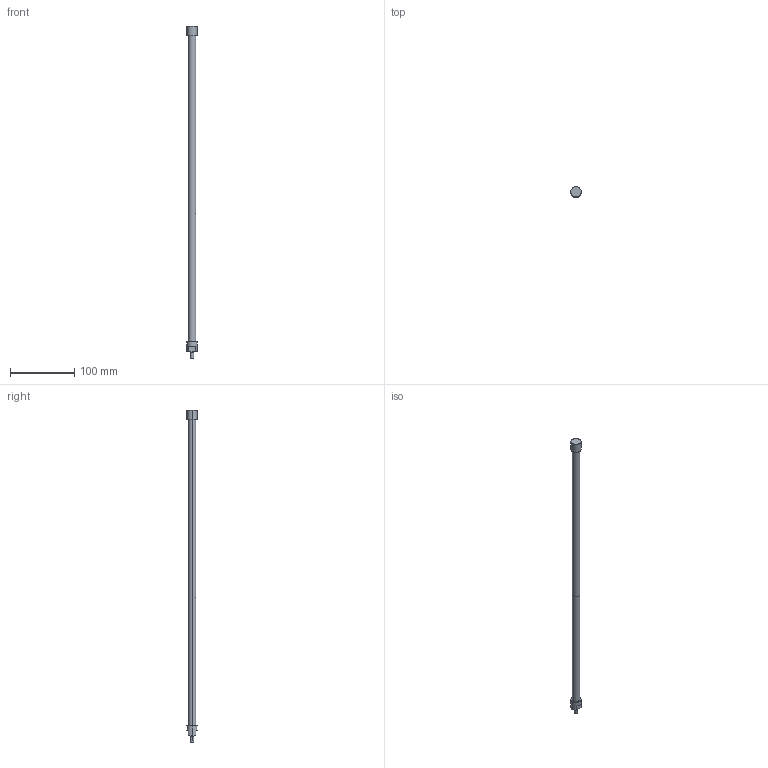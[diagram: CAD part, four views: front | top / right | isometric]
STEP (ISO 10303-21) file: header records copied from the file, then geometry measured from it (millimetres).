
FILE_DESCRIPTION(('STEP AP214'),'1');
FILE_NAME('ETT-R025M515.stp','2015-02-04T08:14:18',(' '),(' '),'Spatial InterOp 3D',' ',' ');
FILE_SCHEMA(('automotive_design'));
Length unit declared in the file: metre
Products named in the file (2): 1; 2
Bounding box: 16 x 16 x 516 mm (x, y, z)
Volume: 40918.8 mm3; surface area: 27349.3 mm2
Topology: 1 solids, 5 shells, 24 faces, 56 edges, 42 vertices
Faces by surface type: cylinder 12, plane 12
Entity records: 952 total; most frequent: DIRECTION 142, CARTESIAN_POINT 124, ORIENTED_EDGE 100, AXIS2_PLACEMENT_3D 60, EDGE_CURVE 56, VERTEX_POINT 42, CIRCLE 34, EDGE_LOOP 28
